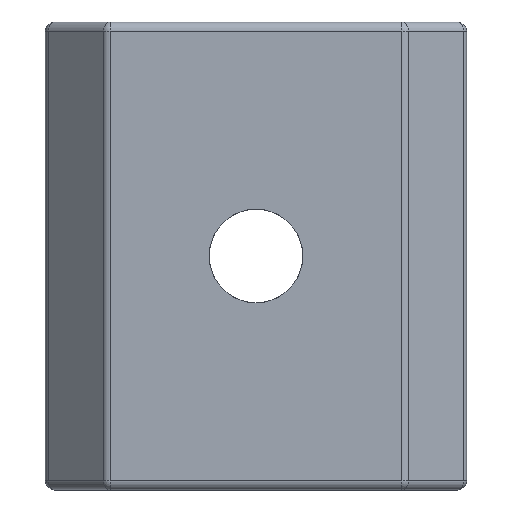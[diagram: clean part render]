
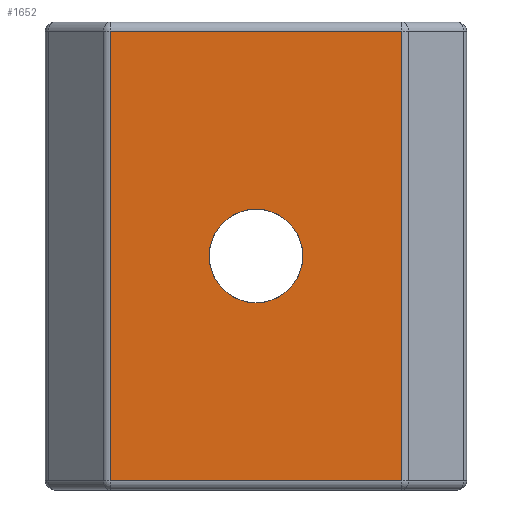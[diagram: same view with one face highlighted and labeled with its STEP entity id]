
A CAD part, front view. The second image highlights one B-rep face of the part: STEP entity #1652.
In plain terms, the highlighted planar face has unit normal (0, -1, 0).
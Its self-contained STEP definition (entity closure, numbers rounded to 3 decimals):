
#18 = EDGE_CURVE ( 'NONE', #1544, #879, #1530, .T. ) ;
#178 = LINE ( 'NONE', #1829, #551 ) ;
#179 = PLANE ( 'NONE',  #1876 ) ;
#192 = FACE_OUTER_BOUND ( 'NONE', #2203, .T. ) ;
#244 = LINE ( 'NONE', #2115, #619 ) ;
#268 = AXIS2_PLACEMENT_3D ( 'NONE', #2224, #1308, #933 ) ;
#297 = CARTESIAN_POINT ( 'NONE',  ( 8.395, -5.2, -19.6 ) ) ;
#352 = CARTESIAN_POINT ( 'NONE',  ( -4.239, -5.2, -20. ) ) ;
#422 = CARTESIAN_POINT ( 'NONE',  ( 2.161, -5.2, -10. ) ) ;
#491 = DIRECTION ( 'NONE',  ( 1., 0., 0. ) ) ;
#527 = CARTESIAN_POINT ( 'NONE',  ( -4.239, -5.2, -0.4 ) ) ;
#551 = VECTOR ( 'NONE', #894, 1000. ) ;
#580 = EDGE_CURVE ( 'NONE', #1283, #1329, #178, .T. ) ;
#619 = VECTOR ( 'NONE', #1725, 1000. ) ;
#653 = LINE ( 'NONE', #527, #1081 ) ;
#734 = ORIENTED_EDGE ( 'NONE', *, *, #1853, .T. ) ;
#827 = EDGE_CURVE ( 'NONE', #1329, #2233, #868, .T. ) ;
#859 = CARTESIAN_POINT ( 'NONE',  ( -4.073, -5.2, -19.6 ) ) ;
#868 = LINE ( 'NONE', #1789, #1791 ) ;
#879 = VERTEX_POINT ( 'NONE', #2360 ) ;
#894 = DIRECTION ( 'NONE',  ( 0., 0., -1. ) ) ;
#933 = DIRECTION ( 'NONE',  ( 1., 0., 0. ) ) ;
#949 = CIRCLE ( 'NONE', #268, 2. ) ;
#988 = ORIENTED_EDGE ( 'NONE', *, *, #1629, .T. ) ;
#1081 = VECTOR ( 'NONE', #2161, 1000. ) ;
#1132 = ORIENTED_EDGE ( 'NONE', *, *, #580, .T. ) ;
#1187 = ORIENTED_EDGE ( 'NONE', *, *, #18, .T. ) ;
#1283 = VERTEX_POINT ( 'NONE', #1411 ) ;
#1308 = DIRECTION ( 'NONE',  ( 0., 1., 0. ) ) ;
#1329 = VERTEX_POINT ( 'NONE', #859 ) ;
#1356 = DIRECTION ( 'NONE',  ( 1., 0., 0. ) ) ;
#1411 = CARTESIAN_POINT ( 'NONE',  ( -4.073, -5.2, -0.4 ) ) ;
#1428 = EDGE_LOOP ( 'NONE', ( #1187, #988 ) ) ;
#1529 = DIRECTION ( 'NONE',  ( 0., 1., 0. ) ) ;
#1530 = CIRCLE ( 'NONE', #2198, 2. ) ;
#1544 = VERTEX_POINT ( 'NONE', #1669 ) ;
#1549 = FACE_BOUND ( 'NONE', #1428, .T. ) ;
#1629 = EDGE_CURVE ( 'NONE', #879, #1544, #949, .T. ) ;
#1652 = ADVANCED_FACE ( 'NONE', ( #192, #1549 ), #179, .T. ) ;
#1669 = CARTESIAN_POINT ( 'NONE',  ( 2.161, -5.2, -8. ) ) ;
#1677 = DIRECTION ( 'NONE',  ( 1., 0., 0. ) ) ;
#1725 = DIRECTION ( 'NONE',  ( 0., 0., 1. ) ) ;
#1789 = CARTESIAN_POINT ( 'NONE',  ( -4.239, -5.2, -19.6 ) ) ;
#1791 = VECTOR ( 'NONE', #491, 1000. ) ;
#1806 = ORIENTED_EDGE ( 'NONE', *, *, #827, .T. ) ;
#1829 = CARTESIAN_POINT ( 'NONE',  ( -4.073, -5.2, -20. ) ) ;
#1853 = EDGE_CURVE ( 'NONE', #2147, #1283, #653, .T. ) ;
#1876 = AXIS2_PLACEMENT_3D ( 'NONE', #352, #2388, #1677 ) ;
#1920 = CARTESIAN_POINT ( 'NONE',  ( 8.395, -5.2, -0.4 ) ) ;
#2081 = EDGE_CURVE ( 'NONE', #2233, #2147, #244, .T. ) ;
#2082 = ORIENTED_EDGE ( 'NONE', *, *, #2081, .T. ) ;
#2115 = CARTESIAN_POINT ( 'NONE',  ( 8.395, -5.2, -20. ) ) ;
#2147 = VERTEX_POINT ( 'NONE', #1920 ) ;
#2161 = DIRECTION ( 'NONE',  ( -1., 0., 0. ) ) ;
#2198 = AXIS2_PLACEMENT_3D ( 'NONE', #422, #1529, #1356 ) ;
#2203 = EDGE_LOOP ( 'NONE', ( #734, #1132, #1806, #2082 ) ) ;
#2224 = CARTESIAN_POINT ( 'NONE',  ( 2.161, -5.2, -10. ) ) ;
#2233 = VERTEX_POINT ( 'NONE', #297 ) ;
#2360 = CARTESIAN_POINT ( 'NONE',  ( 2.161, -5.2, -12. ) ) ;
#2388 = DIRECTION ( 'NONE',  ( 0., -1., 0. ) ) ;
